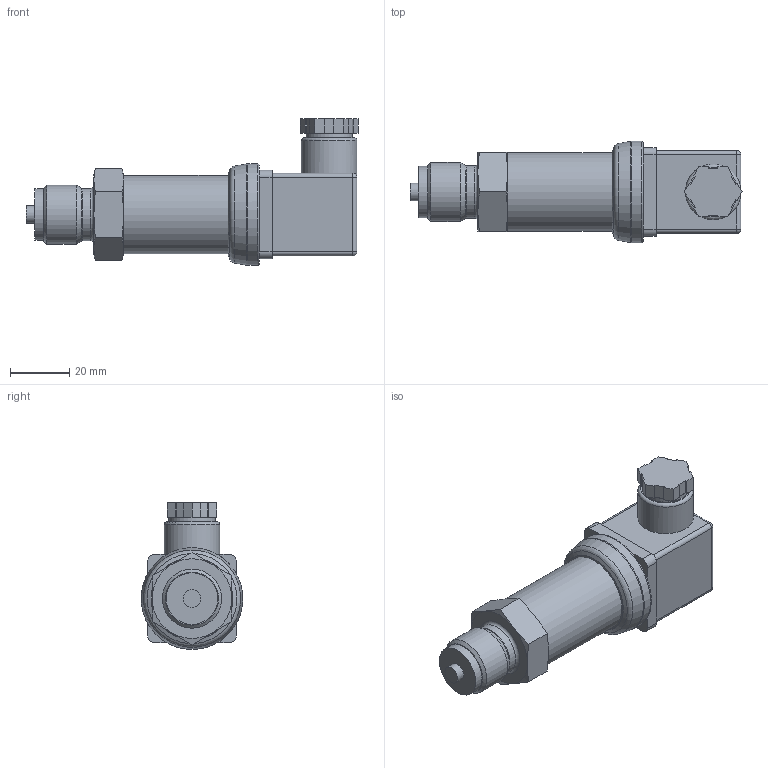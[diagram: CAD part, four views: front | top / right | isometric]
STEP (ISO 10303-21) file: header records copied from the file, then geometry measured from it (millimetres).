
FILE_DESCRIPTION(/* description */ (''),/* implementation_level */ '2;1');
FILE_NAME(/* name */ 'W:\Veřejné dokumenty\3D modely výrobků\DMP333_M20x1,5_DIN3852_ISO4400_standard.stp',/* time_stamp */ '2015-04-22T07:58:44+02:00',/* author */ ('cz1166'),/* organization */ (''),/* preprocessor_version */ 'ST-DEVELOPER v15.2',/* originating_system */ 'Autodesk Inventor 2014',/* authorisation */ '');
FILE_SCHEMA (('AUTOMOTIVE_DESIGN { 1 0 10303 214 3 1 1 }'));
Length unit declared in the file: millimetre
Products named in the file (1): DMP333_M20x1,5_DIN3852_ISO4400_standard
Bounding box: 112.46 x 34.37 x 49.69 mm (x, y, z)
Volume: 72090.1 mm3; surface area: 12999.8 mm2
Topology: 1 solids, 1 shells, 111 faces, 264 edges, 159 vertices
Faces by surface type: plane 63, cylinder 21, cone 16, torus 7, sphere 4
Full cylindrical faces by diameter (mm): 6 x1, 15.7 x1, 17.5 x1, 17.7 x1, 18.8 x1, 20 x1, 26.5 x1, 34.5 x1
Entity records: 3127 total; most frequent: CARTESIAN_POINT 562, DIRECTION 504, ORIENTED_EDGE 474, EDGE_CURVE 237, AXIS2_PLACEMENT_3D 181, VERTEX_POINT 155, LINE 142, VECTOR 142
